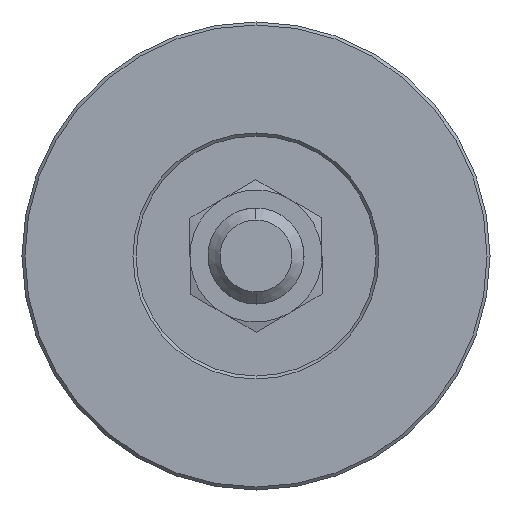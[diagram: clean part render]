
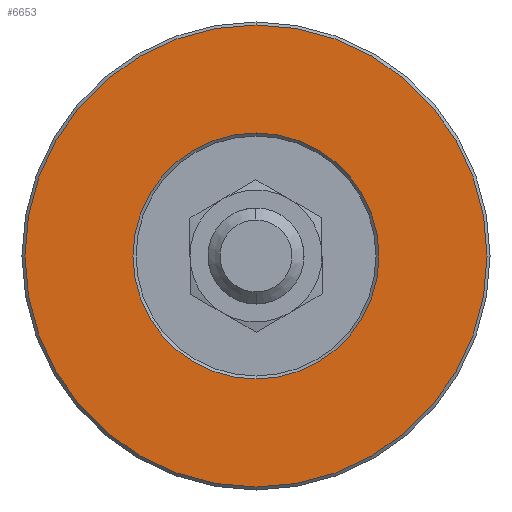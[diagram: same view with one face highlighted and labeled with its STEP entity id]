
A CAD part, front view. The second image highlights one B-rep face of the part: STEP entity #6653.
In plain terms, the highlighted planar face has unit normal (0, -1, 0).
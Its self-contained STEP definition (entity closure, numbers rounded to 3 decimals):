
#212 = CIRCLE ( 'NONE', #7000, 38.5 ) ;
#332 = DIRECTION ( 'NONE',  ( 0., -1., 0. ) ) ;
#419 = EDGE_CURVE ( 'NONE', #7557, #2525, #1993, .T. ) ;
#706 = FACE_OUTER_BOUND ( 'NONE', #2637, .T. ) ;
#803 = CARTESIAN_POINT ( 'NONE',  ( 0., 0., 0. ) ) ;
#1082 = EDGE_LOOP ( 'NONE', ( #8095, #1738 ) ) ;
#1217 = DIRECTION ( 'NONE',  ( 0., -1., 0. ) ) ;
#1537 = ORIENTED_EDGE ( 'NONE', *, *, #6066, .T. ) ;
#1694 = CARTESIAN_POINT ( 'NONE',  ( 0., 0., -38.5 ) ) ;
#1738 = ORIENTED_EDGE ( 'NONE', *, *, #419, .T. ) ;
#1877 = DIRECTION ( 'NONE',  ( 0., 0., -1. ) ) ;
#1993 = CIRCLE ( 'NONE', #2875, 20.5 ) ;
#2289 = PLANE ( 'NONE',  #4832 ) ;
#2335 = VERTEX_POINT ( 'NONE', #1694 ) ;
#2348 = AXIS2_PLACEMENT_3D ( 'NONE', #6728, #3383, #6614 ) ;
#2525 = VERTEX_POINT ( 'NONE', #8216 ) ;
#2637 = EDGE_LOOP ( 'NONE', ( #1537, #6408 ) ) ;
#2875 = AXIS2_PLACEMENT_3D ( 'NONE', #3839, #3230, #3811 ) ;
#2957 = CARTESIAN_POINT ( 'NONE',  ( 0., 0., 20.5 ) ) ;
#3230 = DIRECTION ( 'NONE',  ( 0., 1., 0. ) ) ;
#3383 = DIRECTION ( 'NONE',  ( 0., -1., 0. ) ) ;
#3811 = DIRECTION ( 'NONE',  ( 0., 0., -1. ) ) ;
#3839 = CARTESIAN_POINT ( 'NONE',  ( 0., 0., 0. ) ) ;
#4290 = AXIS2_PLACEMENT_3D ( 'NONE', #803, #6096, #5333 ) ;
#4661 = VERTEX_POINT ( 'NONE', #6498 ) ;
#4807 = CARTESIAN_POINT ( 'NONE',  ( 20., 0., 0. ) ) ;
#4832 = AXIS2_PLACEMENT_3D ( 'NONE', #4807, #332, #4890 ) ;
#4890 = DIRECTION ( 'NONE',  ( 0., 0., -1. ) ) ;
#4976 = CIRCLE ( 'NONE', #2348, 38.5 ) ;
#5208 = CIRCLE ( 'NONE', #4290, 20.5 ) ;
#5333 = DIRECTION ( 'NONE',  ( 0., 0., -1. ) ) ;
#5410 = FACE_BOUND ( 'NONE', #1082, .T. ) ;
#5466 = EDGE_CURVE ( 'NONE', #2525, #7557, #5208, .T. ) ;
#6066 = EDGE_CURVE ( 'NONE', #4661, #2335, #212, .T. ) ;
#6096 = DIRECTION ( 'NONE',  ( 0., 1., 0. ) ) ;
#6408 = ORIENTED_EDGE ( 'NONE', *, *, #7339, .T. ) ;
#6498 = CARTESIAN_POINT ( 'NONE',  ( 0., 0., 38.5 ) ) ;
#6614 = DIRECTION ( 'NONE',  ( 0., 0., -1. ) ) ;
#6653 = ADVANCED_FACE ( 'NONE', ( #706, #5410 ), #2289, .T. ) ;
#6728 = CARTESIAN_POINT ( 'NONE',  ( 0., 0., 0. ) ) ;
#7000 = AXIS2_PLACEMENT_3D ( 'NONE', #8319, #1217, #1877 ) ;
#7339 = EDGE_CURVE ( 'NONE', #2335, #4661, #4976, .T. ) ;
#7557 = VERTEX_POINT ( 'NONE', #2957 ) ;
#8095 = ORIENTED_EDGE ( 'NONE', *, *, #5466, .T. ) ;
#8216 = CARTESIAN_POINT ( 'NONE',  ( 0., 0., -20.5 ) ) ;
#8319 = CARTESIAN_POINT ( 'NONE',  ( 0., 0., 0. ) ) ;
